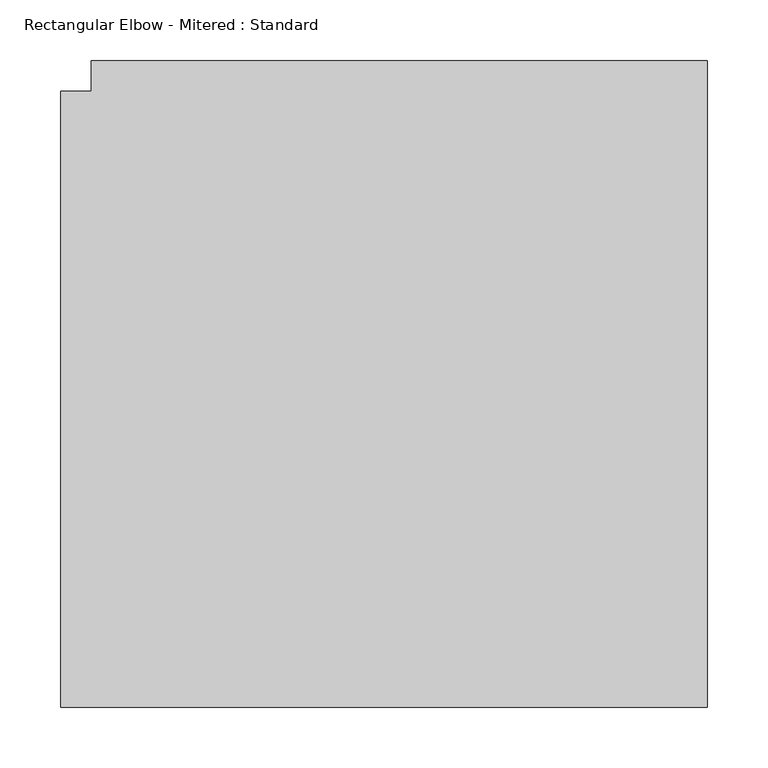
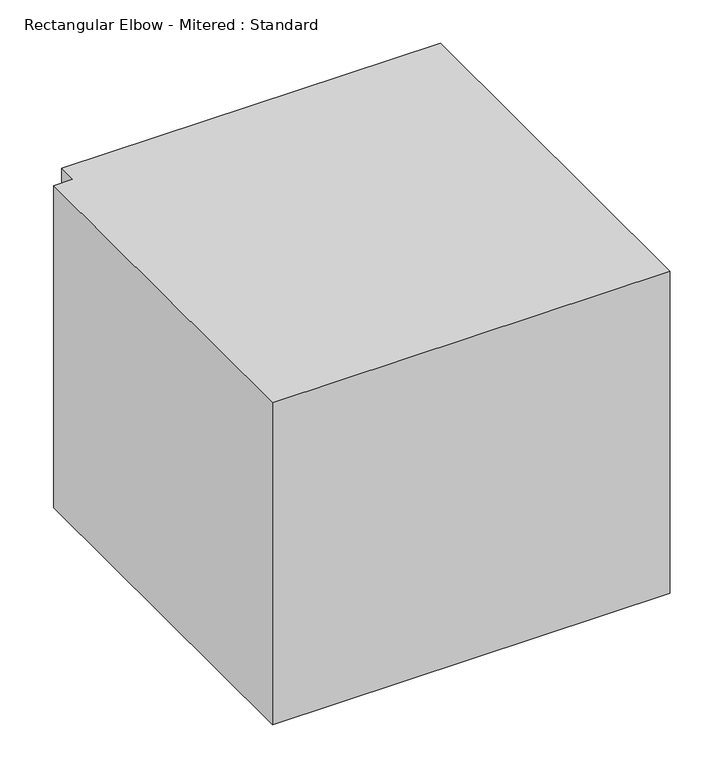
"""IFC4 building model written with IfcOpenShell, lengths in millimetres: duct fitting geometry, Rectangular Elbow - Mitered : Standard."""

from ifc_helpers import new_model, si_unit, frame, origin, place, context, project, spatial, polyline, outline, extrude, source, transform, mapped, element, save


def rectangular_elbow_mitered_standard_946096ac(model_context):
    return source(origin(), model_context, "Body", "SweptSolid", [
        extrude(outline(polyline([(-279.4, -254.0), (-279.4, 254.0), (-254.0, 254.0), (-254.0, 279.4), (254.0, 279.4), (254.0, -254.0), (-279.4, -254.0)])), frame((0.0, 0.0, -228.6), z_axis=(0.0, 0.0, 1.0), x_axis=(1.0, 0.0, 0.0)), (0.0, 0.0, 1.0), 457.2),
    ])


if __name__ == "__main__":
    model = new_model("IFC4")
    model_context = context("Model", 3, world=origin())
    ifc_project = project(units=[si_unit("LENGTHUNIT", "METRE", prefix="MILLI")], contexts=[model_context])
    site = spatial("IfcSite", under=ifc_project)
    building = spatial("IfcBuilding", under=site)
    placement = place(None, origin())
    rectangular_elbow_mitered_standard_shape = rectangular_elbow_mitered_standard_946096ac(model_context)
    element("IfcDuctFitting", 1, ObjectType="Rectangular Elbow - Mitered : Standard", at=placement, inside=building, context=model_context, shape_type="MappedRepresentation", body=[
        mapped(rectangular_elbow_mitered_standard_shape, transform((0.0, 0.0, 0.0), x_axis=(1.0, 0.0, 0.0), y_axis=(0.0, 1.0, 0.0), z_axis=(0.0, 0.0, 1.0))),
    ])
    save(model, "model.ifc")
